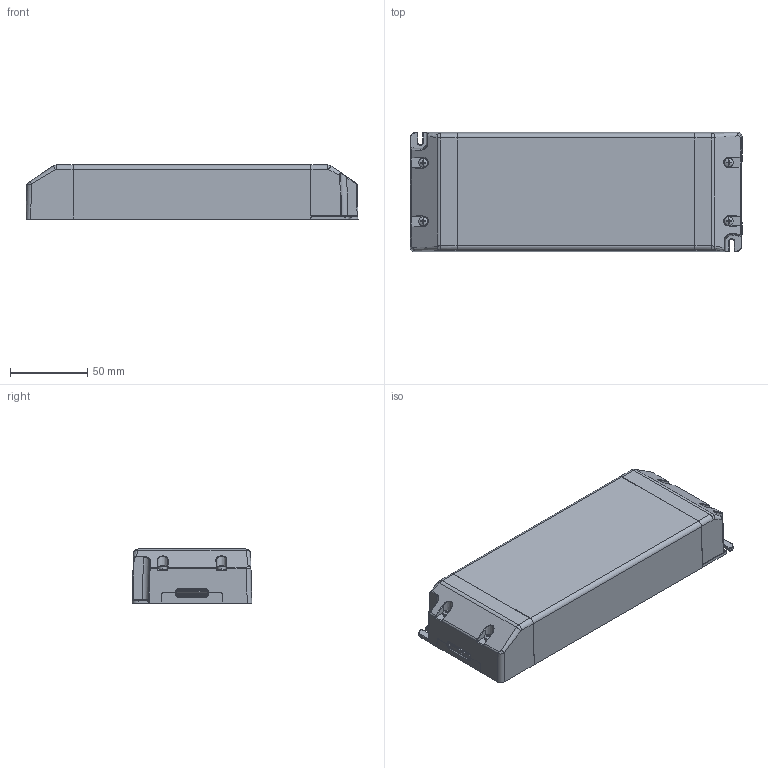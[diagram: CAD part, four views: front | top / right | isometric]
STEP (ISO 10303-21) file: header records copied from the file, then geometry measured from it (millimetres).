
FILE_DESCRIPTION(/* description */ (''),/* implementation_level */ '2;1');
FILE_NAME(/* name */ 'SNP320-48VL-1.stp',/* time_stamp */ '2024-05-22T18:34:57+08:00',/* author */ (''),/* organization */ (''),/* preprocessor_version */ 'ST-DEVELOPER v16',/* originating_system */ 'SIEMENS PLM Software NX 10.0',/* authorisation */ '');
FILE_SCHEMA (('CONFIG_CONTROL_DESIGN'));
Length unit declared in the file: millimetre
Products named in the file (1): 1111_x_t
Bounding box: 215.01 x 77.51 x 35 mm (x, y, z)
Volume: 90548.5 mm3; surface area: 133135.2 mm2
Topology: 2 solids, 6 shells, 1479 faces, 4092 edges, 2638 vertices
Faces by surface type: plane 949, cylinder 310, bspline 114, cone 76, sphere 18, torus 12
Full cylindrical faces by diameter (mm): 2.6 x4, 3.2 x4, 5 x4
Entity records: 49630 total; most frequent: CARTESIAN_POINT 12356, ORIENTED_EDGE 8076, DIRECTION 7396, EDGE_CURVE 4038, LINE 2852, VECTOR 2852, VERTEX_POINT 2622, AXIS2_PLACEMENT_3D 2272
